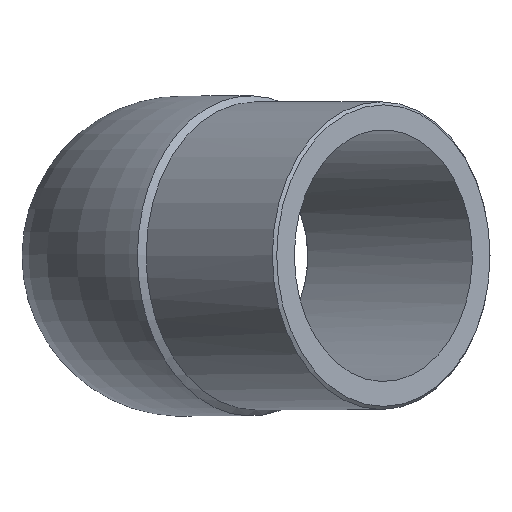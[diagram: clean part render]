
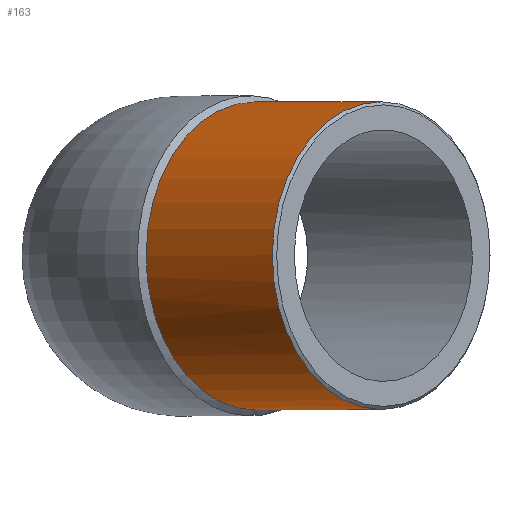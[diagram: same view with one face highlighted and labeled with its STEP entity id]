
A CAD part, top view. The second image highlights one B-rep face of the part: STEP entity #163.
In plain terms, the highlighted cylindrical face has radius 100 mm (diameter 200 mm), a full revolution.
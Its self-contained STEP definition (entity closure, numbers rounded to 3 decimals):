
#25=CYLINDRICAL_SURFACE('',#189,100.);
#37=ORIENTED_EDGE('',*,*,#71,.T.);
#38=ORIENTED_EDGE('',*,*,#69,.F.);
#69=EDGE_CURVE('',#86,#86,#102,.T.);
#71=EDGE_CURVE('',#88,#88,#103,.T.);
#86=VERTEX_POINT('',#261);
#88=VERTEX_POINT('',#336);
#102=CIRCLE('',#188,100.);
#103=CIRCLE('',#190,100.);
#114=EDGE_LOOP('',(#37));
#115=EDGE_LOOP('',(#38));
#137=FACE_BOUND('',#114,.T.);
#138=FACE_BOUND('',#115,.T.);
#163=ADVANCED_FACE('',(#137,#138),#25,.T.);
#188=AXIS2_PLACEMENT_3D('',#260,#214,#215);
#189=AXIS2_PLACEMENT_3D('',#334,#216,#217);
#190=AXIS2_PLACEMENT_3D('',#335,#218,#219);
#214=DIRECTION('',(-0.707,0.,-0.707));
#215=DIRECTION('',(-0.707,0.,0.707));
#216=DIRECTION('',(0.707,0.,0.707));
#217=DIRECTION('',(-0.707,0.,0.707));
#218=DIRECTION('',(-0.707,0.,-0.707));
#219=DIRECTION('',(-0.707,0.,0.707));
#260=CARTESIAN_POINT('',(47.376,0.,47.376));
#261=CARTESIAN_POINT('',(-23.335,0.,118.087));
#334=CARTESIAN_POINT('',(130.815,0.,130.815));
#335=CARTESIAN_POINT('',(129.401,0.,129.401));
#336=CARTESIAN_POINT('',(58.69,0.,200.111));
